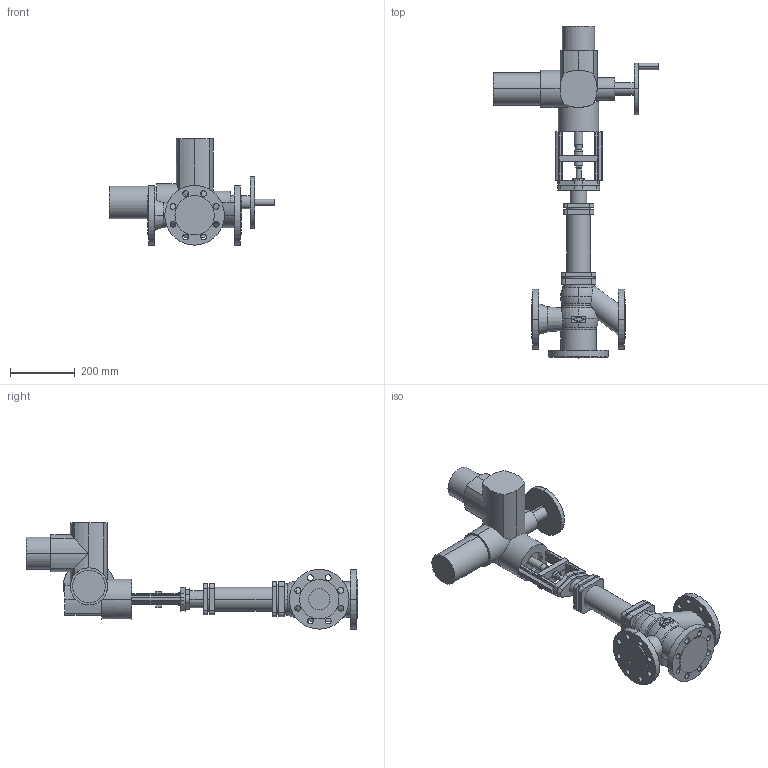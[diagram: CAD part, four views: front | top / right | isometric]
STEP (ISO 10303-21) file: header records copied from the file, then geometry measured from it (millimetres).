
FILE_DESCRIPTION(('OneSpaceDesigner STEP Export'),'2;1');
FILE_NAME('c000003221.stp','2007-01-25T12:05:34',(''),(''),'OneSpace Designer STEP processor for AP214 (Solid Model)','OneSpace Designer 14.00B 27-May-2006 (C) CoCreate Software GmbH','');
FILE_SCHEMA(('AUTOMOTIVE_DESIGN { 1 0 10303 214 1 1 1 1 }'));
Length unit declared in the file: millimetre
Products named in the file (2): 1; 2
Bounding box: 514 x 1029 x 329.5 mm (x, y, z)
Volume: 14628917.3 mm3; surface area: 878797.6 mm2
Topology: 2 solids, 2 shells, 362 faces, 946 edges, 611 vertices
Faces by surface type: cylinder 186, plane 147, torus 21, cone 8
Entity records: 10681 total; most frequent: CARTESIAN_POINT 2350, ORIENTED_EDGE 1892, DIRECTION 1534, EDGE_CURVE 946, VERTEX_POINT 611, AXIS2_PLACEMENT_3D 531, VECTOR 472, LINE 472
